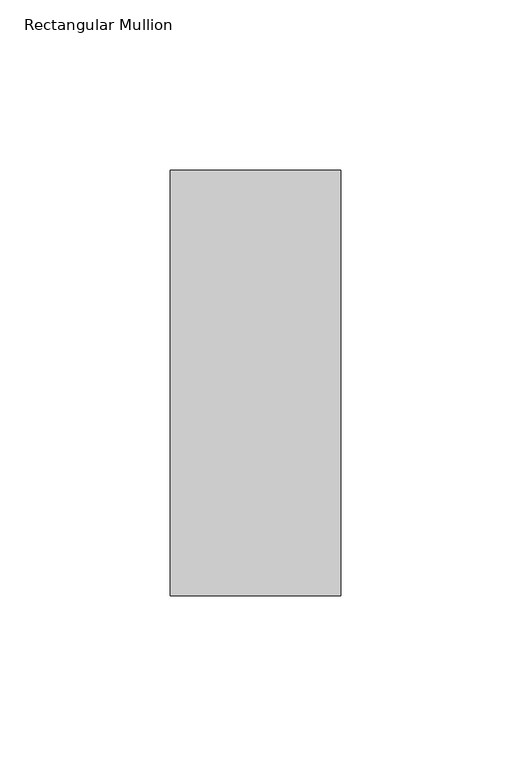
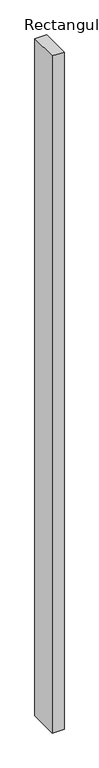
"""IFC4 building model written with IfcOpenShell, lengths in millimetres: member geometry, Rectangular Mullion : RSen_21_CWM_support profile - 50x125 - left_gen_duco projects."""

from ifc_helpers import new_model, si_unit, frame, origin, place, context, project, spatial, polyline, outline, extrude, source, transform, mapped, element, save


def rectangular_mullion_6cfc0fe8(model_context):
    return source(origin(), model_context, "Body", "SweptSolid", [
        extrude(outline(polyline([(-50.0, 1.0), (-50.0, -124.0), (-100.0, -124.0), (-100.0, 1.0), (-50.0, 1.0)])), frame((0.0, 0.0, -3000.0), z_axis=(0.0, 0.0, 1.0), x_axis=(1.0, 0.0, 0.0)), (0.0, 0.0, 1.0), 3000.0),
    ])


if __name__ == "__main__":
    model = new_model("IFC4")
    model_context = context("Model", 3, world=origin())
    ifc_project = project(units=[si_unit("LENGTHUNIT", "METRE", prefix="MILLI")], contexts=[model_context])
    site = spatial("IfcSite", under=ifc_project)
    building = spatial("IfcBuilding", under=site)
    placement = place(None, origin())
    rectangular_mullion_shape = rectangular_mullion_6cfc0fe8(model_context)
    element("IfcMember", 1, ObjectType="Rectangular Mullion : RSen_21_CWM_support profile - 50x125 - left_gen_duco projects", at=placement, inside=building, context=model_context, shape_type="MappedRepresentation", body=[
        mapped(rectangular_mullion_shape, transform((0.0, 0.0, 0.0), x_axis=(1.0, 0.0, 0.0), y_axis=(0.0, 1.0, 0.0), z_axis=(0.0, 0.0, 1.0))),
    ])
    save(model, "model.ifc")
